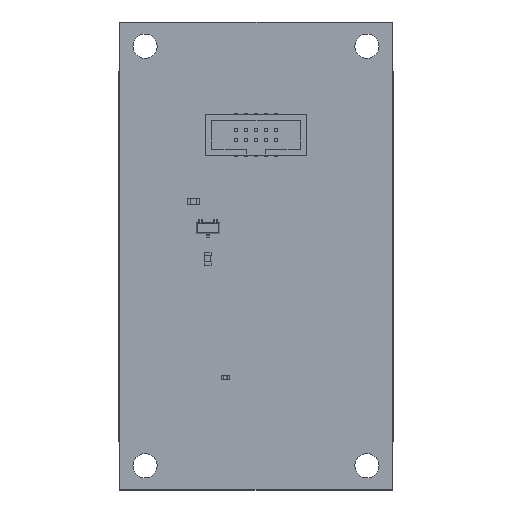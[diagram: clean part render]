
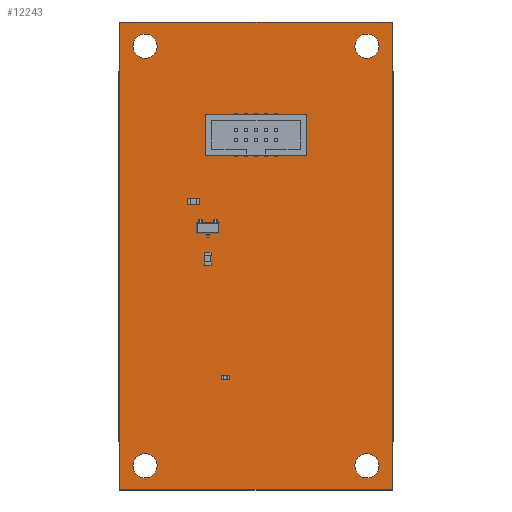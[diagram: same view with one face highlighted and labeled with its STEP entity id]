
A CAD part, top view. The second image highlights one B-rep face of the part: STEP entity #12243.
In plain terms, the highlighted planar face has unit normal (0, 0, 1).
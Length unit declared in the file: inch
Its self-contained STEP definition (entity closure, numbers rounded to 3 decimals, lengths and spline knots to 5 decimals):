
#360 = EDGE_CURVE ( 'NONE', #14822, #6695, #13930, .T. ) ;
#483 = CARTESIAN_POINT ( 'NONE',  ( 0.675, 1.16, 0.065 ) ) ;
#550 = FACE_BOUND ( 'NONE', #13238, .T. ) ;
#565 = FACE_BOUND ( 'NONE', #10126, .T. ) ;
#573 = FACE_OUTER_BOUND ( 'NONE', #1916, .T. ) ;
#615 = FACE_BOUND ( 'NONE', #4294, .T. ) ;
#651 = FACE_BOUND ( 'NONE', #2884, .T. ) ;
#732 = ORIENTED_EDGE ( 'NONE', *, *, #14839, .F. ) ;
#852 = EDGE_CURVE ( 'NONE', #12066, #15631, #11321, .T. ) ;
#1161 = AXIS2_PLACEMENT_3D ( 'NONE', #14352, #14330, #14306 ) ;
#1395 = VERTEX_POINT ( 'NONE', #4138 ) ;
#1916 = EDGE_LOOP ( 'NONE', ( #13073, #11722, #10123, #6498 ) ) ;
#2012 = CARTESIAN_POINT ( 'NONE',  ( 0.55, 1.04, 0.065 ) ) ;
#2018 = DIRECTION ( 'NONE',  ( 1., 0., 0. ) ) ;
#2032 = DIRECTION ( 'NONE',  ( 0., 0., 1. ) ) ;
#2042 = DIRECTION ( 'NONE',  ( 0., 0., 1. ) ) ;
#2047 = CARTESIAN_POINT ( 'NONE',  ( 0.55, -1.04, 0.065 ) ) ;
#2052 = DIRECTION ( 'NONE',  ( 1., 0., 0. ) ) ;
#2187 = CIRCLE ( 'NONE', #15441, 0.06 ) ;
#2856 = DIRECTION ( 'NONE',  ( 1., 0., 0. ) ) ;
#2880 = DIRECTION ( 'NONE',  ( 0., 0., 1. ) ) ;
#2884 = EDGE_LOOP ( 'NONE', ( #13723, #11687 ) ) ;
#2908 = CARTESIAN_POINT ( 'NONE',  ( -0.55, 1.04, 0.065 ) ) ;
#3078 = EDGE_CURVE ( 'NONE', #11306, #11080, #12108, .T. ) ;
#3226 = CIRCLE ( 'NONE', #9561, 0.06 ) ;
#3230 = CARTESIAN_POINT ( 'NONE',  ( 0.675, -1.16, 0.065 ) ) ;
#3264 = VECTOR ( 'NONE', #14869, 39.37008 ) ;
#3368 = CIRCLE ( 'NONE', #12952, 0.06 ) ;
#3536 = CARTESIAN_POINT ( 'NONE',  ( -0.61, -1.04, 0.065 ) ) ;
#3577 = ORIENTED_EDGE ( 'NONE', *, *, #6776, .F. ) ;
#3837 = CARTESIAN_POINT ( 'NONE',  ( -0.49, -1.04, 0.065 ) ) ;
#3925 = CARTESIAN_POINT ( 'NONE',  ( 0.675, 1.16, 0.065 ) ) ;
#4138 = CARTESIAN_POINT ( 'NONE',  ( 0.61, -1.04, 0.065 ) ) ;
#4294 = EDGE_LOOP ( 'NONE', ( #10235, #5252 ) ) ;
#4368 = EDGE_CURVE ( 'NONE', #1395, #8011, #3226, .T. ) ;
#5252 = ORIENTED_EDGE ( 'NONE', *, *, #7450, .F. ) ;
#5576 = EDGE_CURVE ( 'NONE', #15631, #12066, #10105, .T. ) ;
#5588 = VERTEX_POINT ( 'NONE', #11887 ) ;
#5738 = EDGE_CURVE ( 'NONE', #15378, #5588, #9390, .T. ) ;
#5785 = DIRECTION ( 'NONE',  ( 1., 0., 0. ) ) ;
#5890 = CARTESIAN_POINT ( 'NONE',  ( -0.61, 1.04, 0.065 ) ) ;
#6454 = AXIS2_PLACEMENT_3D ( 'NONE', #10692, #10675, #10657 ) ;
#6498 = ORIENTED_EDGE ( 'NONE', *, *, #3078, .T. ) ;
#6695 = VERTEX_POINT ( 'NONE', #3230 ) ;
#6776 = EDGE_CURVE ( 'NONE', #10347, #10027, #2187, .T. ) ;
#7287 = AXIS2_PLACEMENT_3D ( 'NONE', #7723, #7719, #7703 ) ;
#7409 = DIRECTION ( 'NONE',  ( 0., 0., 1. ) ) ;
#7450 = EDGE_CURVE ( 'NONE', #5588, #15378, #15735, .T. ) ;
#7703 = DIRECTION ( 'NONE',  ( 1., 0., 0. ) ) ;
#7719 = DIRECTION ( 'NONE',  ( 0., 0., 1. ) ) ;
#7723 = CARTESIAN_POINT ( 'NONE',  ( -0.55, -1.04, 0.065 ) ) ;
#8011 = VERTEX_POINT ( 'NONE', #13724 ) ;
#8054 = CARTESIAN_POINT ( 'NONE',  ( 0.49, 1.04, 0.065 ) ) ;
#9055 = ORIENTED_EDGE ( 'NONE', *, *, #4368, .F. ) ;
#9390 = CIRCLE ( 'NONE', #6454, 0.06 ) ;
#9415 = DIRECTION ( 'NONE',  ( 1., 0., 0. ) ) ;
#9474 = CARTESIAN_POINT ( 'NONE',  ( 0., 0., 0.065 ) ) ;
#9561 = AXIS2_PLACEMENT_3D ( 'NONE', #2047, #2042, #2018 ) ;
#9599 = DIRECTION ( 'NONE',  ( 0., 1., 0. ) ) ;
#9874 = CARTESIAN_POINT ( 'NONE',  ( -0.49, 1.04, 0.065 ) ) ;
#10027 = VERTEX_POINT ( 'NONE', #9874 ) ;
#10031 = LINE ( 'NONE', #14943, #3264 ) ;
#10105 = CIRCLE ( 'NONE', #11042, 0.06 ) ;
#10123 = ORIENTED_EDGE ( 'NONE', *, *, #10486, .T. ) ;
#10126 = EDGE_LOOP ( 'NONE', ( #732, #9055 ) ) ;
#10235 = ORIENTED_EDGE ( 'NONE', *, *, #5738, .F. ) ;
#10347 = VERTEX_POINT ( 'NONE', #5890 ) ;
#10486 = EDGE_CURVE ( 'NONE', #6695, #11306, #11727, .T. ) ;
#10530 = CARTESIAN_POINT ( 'NONE',  ( -0.675, 1.16, 0.065 ) ) ;
#10652 = PLANE ( 'NONE',  #11969 ) ;
#10657 = DIRECTION ( 'NONE',  ( 1., 0., 0. ) ) ;
#10675 = DIRECTION ( 'NONE',  ( 0., 0., 1. ) ) ;
#10692 = CARTESIAN_POINT ( 'NONE',  ( 0.55, 1.04, 0.065 ) ) ;
#10898 = CARTESIAN_POINT ( 'NONE',  ( -0.675, -1.16, 0.065 ) ) ;
#11042 = AXIS2_PLACEMENT_3D ( 'NONE', #11678, #11659, #11643 ) ;
#11080 = VERTEX_POINT ( 'NONE', #10530 ) ;
#11306 = VERTEX_POINT ( 'NONE', #483 ) ;
#11321 = CIRCLE ( 'NONE', #7287, 0.06 ) ;
#11615 = CARTESIAN_POINT ( 'NONE',  ( -0.675, 1.16, 0.065 ) ) ;
#11643 = DIRECTION ( 'NONE',  ( 1., 0., 0. ) ) ;
#11659 = DIRECTION ( 'NONE',  ( 0., 0., 1. ) ) ;
#11678 = CARTESIAN_POINT ( 'NONE',  ( -0.55, -1.04, 0.065 ) ) ;
#11687 = ORIENTED_EDGE ( 'NONE', *, *, #852, .F. ) ;
#11698 = EDGE_CURVE ( 'NONE', #10027, #10347, #3368, .T. ) ;
#11711 = VECTOR ( 'NONE', #9599, 39.37008 ) ;
#11722 = ORIENTED_EDGE ( 'NONE', *, *, #360, .T. ) ;
#11727 = LINE ( 'NONE', #3925, #11711 ) ;
#11867 = DIRECTION ( 'NONE',  ( -1., 0., 0. ) ) ;
#11887 = CARTESIAN_POINT ( 'NONE',  ( 0.61, 1.04, 0.065 ) ) ;
#11969 = AXIS2_PLACEMENT_3D ( 'NONE', #9474, #7409, #9415 ) ;
#12061 = VECTOR ( 'NONE', #11867, 39.37008 ) ;
#12066 = VERTEX_POINT ( 'NONE', #3837 ) ;
#12108 = LINE ( 'NONE', #11615, #12061 ) ;
#12243 = ADVANCED_FACE ( 'NONE', ( #615, #651, #573, #565, #550 ), #10652, .T. ) ;
#12685 = DIRECTION ( 'NONE',  ( 1., 0., 0. ) ) ;
#12742 = DIRECTION ( 'NONE',  ( 0., 0., 1. ) ) ;
#12812 = CARTESIAN_POINT ( 'NONE',  ( -0.55, 1.04, 0.065 ) ) ;
#12952 = AXIS2_PLACEMENT_3D ( 'NONE', #12812, #12742, #12685 ) ;
#13073 = ORIENTED_EDGE ( 'NONE', *, *, #13348, .T. ) ;
#13238 = EDGE_LOOP ( 'NONE', ( #3577, #14738 ) ) ;
#13348 = EDGE_CURVE ( 'NONE', #11080, #14822, #10031, .T. ) ;
#13723 = ORIENTED_EDGE ( 'NONE', *, *, #5576, .F. ) ;
#13724 = CARTESIAN_POINT ( 'NONE',  ( 0.49, -1.04, 0.065 ) ) ;
#13930 = LINE ( 'NONE', #10898, #14118 ) ;
#14118 = VECTOR ( 'NONE', #5785, 39.37008 ) ;
#14306 = DIRECTION ( 'NONE',  ( 1., 0., 0. ) ) ;
#14330 = DIRECTION ( 'NONE',  ( 0., 0., 1. ) ) ;
#14352 = CARTESIAN_POINT ( 'NONE',  ( 0.55, -1.04, 0.065 ) ) ;
#14620 = CARTESIAN_POINT ( 'NONE',  ( -0.675, -1.16, 0.065 ) ) ;
#14738 = ORIENTED_EDGE ( 'NONE', *, *, #11698, .F. ) ;
#14822 = VERTEX_POINT ( 'NONE', #14620 ) ;
#14839 = EDGE_CURVE ( 'NONE', #8011, #1395, #16135, .T. ) ;
#14869 = DIRECTION ( 'NONE',  ( 0., -1., 0. ) ) ;
#14943 = CARTESIAN_POINT ( 'NONE',  ( -0.675, 1.16, 0.065 ) ) ;
#15378 = VERTEX_POINT ( 'NONE', #8054 ) ;
#15441 = AXIS2_PLACEMENT_3D ( 'NONE', #2908, #2880, #2856 ) ;
#15631 = VERTEX_POINT ( 'NONE', #3536 ) ;
#15730 = AXIS2_PLACEMENT_3D ( 'NONE', #2012, #2032, #2052 ) ;
#15735 = CIRCLE ( 'NONE', #15730, 0.06 ) ;
#16135 = CIRCLE ( 'NONE', #1161, 0.06 ) ;
